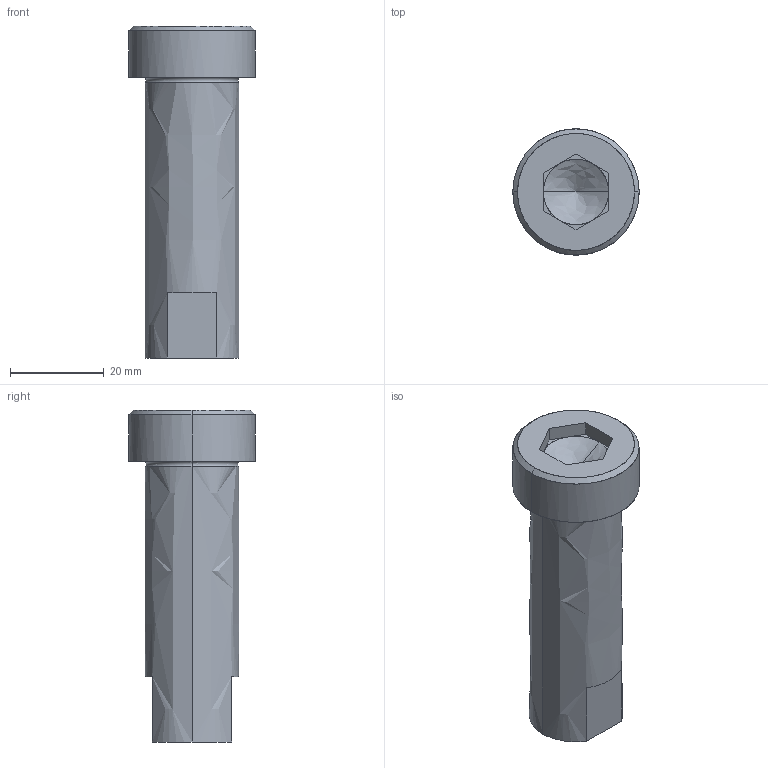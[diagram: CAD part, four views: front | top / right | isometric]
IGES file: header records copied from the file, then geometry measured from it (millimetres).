
Global section: file name: E:\UnigraphicsGraphicData\MISUMI_PRESS-PARTS\IGES\3d_sbtn20-60_00147_r00.igs; native system: NX V5.0; preprocessor: UGS NX IGES V5.0; author: MISUMI; date: 20110105.162507; units: millimetre
Bounding box: 27 x 27 x 71 mm (x, y, z)
Surface area: 6641.4 mm2 (no closed solid volume)
Topology: 0 solids, 0 shells, 38 faces, 220 edges, 216 vertices
Faces by surface type: bspline 38
